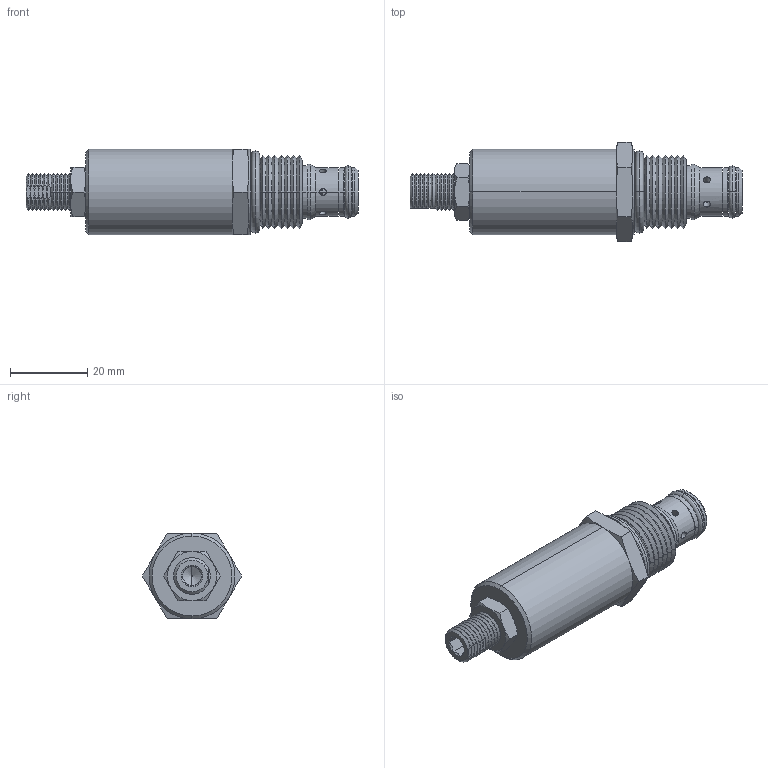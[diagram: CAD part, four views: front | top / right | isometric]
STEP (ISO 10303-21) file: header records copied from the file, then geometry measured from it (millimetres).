
FILE_DESCRIPTION((''),'2;1');
FILE_NAME('U:\Solid model CD\Solid model full\Mechanical\STEP\PBRWA00-3D Full.stp','2008-07-29T09:53:29',('Dan'),(''),'Autodesk Inventor 9','Autodesk Inventor 9','');
FILE_SCHEMA(('AUTOMOTIVE_DESIGN { 1 0 10303 214 1 1 1 1 }'));
Length unit declared in the file: inch
Products named in the file (5): PBRWA00-3D Full; PBRWA00-3D Full1; PBRWA00-3D Full2; PBRWA00-3D Full3; PBRWA00-3D Full4
Assembly tree (4 placements, depth 2):
  PBRWA00-3D Full
    PBRWA00-3D Full1
    PBRWA00-3D Full2
    PBRWA00-3D Full3
    PBRWA00-3D Full4
Bounding box: 85.8 x 25.66 x 22.23 mm (x, y, z)
Volume: 22956.6 mm3; surface area: 7417.5 mm2
Topology: 4 solids, 4 shells, 218 faces, 488 edges, 282 vertices
Faces by surface type: cone 118, plane 46, cylinder 40, bspline 10, torus 4
Entity records: 6630 total; most frequent: CARTESIAN_POINT 1856, DIRECTION 1003, ORIENTED_EDGE 976, EDGE_CURVE 488, AXIS2_PLACEMENT_3D 418, VERTEX_POINT 282, EDGE_LOOP 240, FACE_OUTER_BOUND 218
